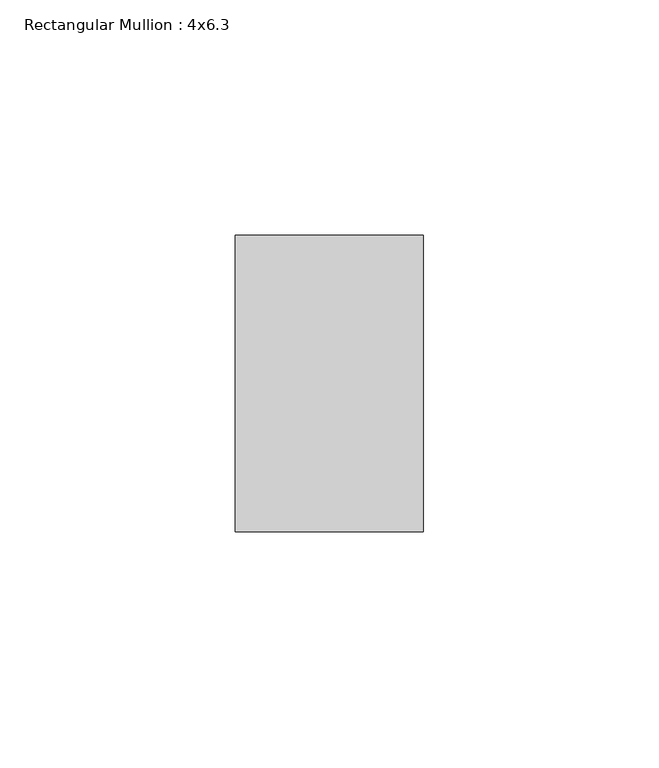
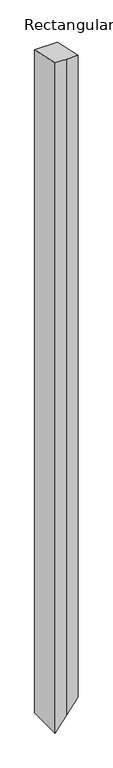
"""IFC4 building model written with IfcOpenShell, lengths in millimetres: member geometry, Rectangular Mullion : 4x6.3."""

from ifc_helpers import new_model, si_unit, origin, place, context, project, spatial, faceted_brep, source, transform, mapped, element, save


def rectangular_mullion_4x6_3_5dfd08a0(model_context):
    return source(origin(), model_context, "Body", "Brep", [
        faceted_brep([(0.0, 20.0, -4.3995804), (-20.0, 20.0, -4.3995804), (-20.0, 20.0, -1256.7353596), (0.0, 20.0, -1230.3146026), (20.0, 20.0, -4.3995804), (20.0, 20.0, -1203.8938457), (20.0, 83.0, -18.2582585), (20.0, 83.0, -1203.8938457), (-20.0, 83.0, -18.2582585), (-20.0, 83.0, -1256.7353596)], [[[0, 1, 2, 3]], [[4, 0, 3, 5]], [[6, 4, 5, 7]], [[8, 6, 7, 9]], [[1, 8, 9, 2]], [[1, 0, 4, 6, 8]], [[2, 9, 7, 5, 3]]]),
    ])


if __name__ == "__main__":
    model = new_model("IFC4")
    model_context = context("Model", 3, world=origin())
    ifc_project = project(units=[si_unit("LENGTHUNIT", "METRE", prefix="MILLI")], contexts=[model_context])
    site = spatial("IfcSite", under=ifc_project)
    building = spatial("IfcBuilding", under=site)
    placement = place(None, origin())
    rectangular_mullion_4x6_3_shape = rectangular_mullion_4x6_3_5dfd08a0(model_context)
    element("IfcMember", 1, ObjectType="Rectangular Mullion : 4x6.3", at=placement, inside=building, context=model_context, shape_type="MappedRepresentation", body=[
        mapped(rectangular_mullion_4x6_3_shape, transform((0.0, 0.0, 0.0), x_axis=(1.0, 0.0, 0.0), y_axis=(0.0, 1.0, 0.0), z_axis=(0.0, 0.0, 1.0))),
    ])
    save(model, "model.ifc")
